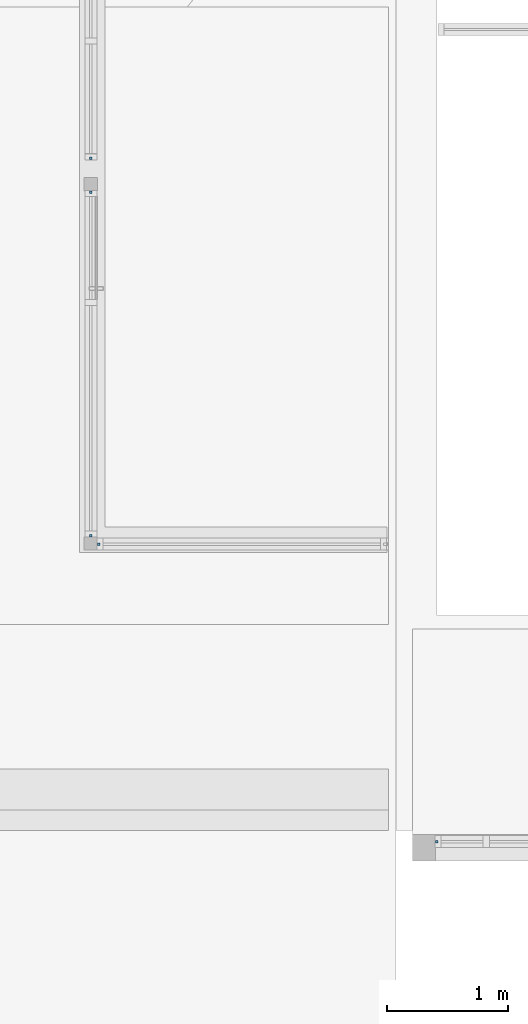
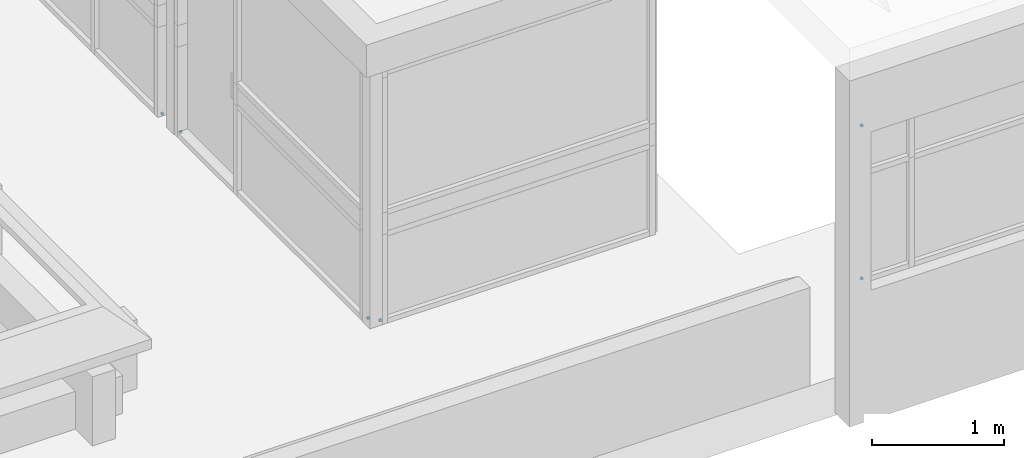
# One storey, part 116 of 153: 6 plates, 4 elements without a shape of their own.
"""IFC4 building model written with IfcOpenShell, lengths in metres."""

import ifcopenshell
import ifcopenshell.guid

model = None  # the IFC model being written
_history = None  # IfcOwnerHistory: only IFC2X3 demands one
_inside = {}  # id of a spatial element -> (the spatial element, [elements in it])
_under = {}  # id of a project, library or spatial element -> (it, [spatial elements below it])
_declared = {}  # id of a project -> (the project, [libraries it declares])
_typed = {}  # id of a type object -> (the type object, [elements of that type])
_made_of = {}  # id of a material, layer set ... -> (it, [elements and type objects made of it])


def new_model(schema):
    """Start an empty IFC model of exactly this schema.

    Asked for "IFC4X3", IfcOpenShell would pick the latest addendum, in which some entities
    have other attributes; the version numbers below select the first issue.
    IFC2X3 requires an IfcOwnerHistory on every rooted entity: one is made here for all.
    """
    global model, _history
    if schema == "IFC4X3":
        model = ifcopenshell.file(schema_version=(4, 3, 0, 0))
    else:
        model = ifcopenshell.file(schema=schema)
    _inside.clear()
    _under.clear()
    _declared.clear()
    _typed.clear()
    _made_of.clear()
    _history = None
    if model.schema == "IFC2X3":
        org = make("IfcOrganization", Name="unknown")
        user = make(
            "IfcPersonAndOrganization",
            ThePerson=make("IfcPerson", FamilyName="unknown"),
            TheOrganization=org,
        )
        app = make(
            "IfcApplication",
            ApplicationDeveloper=org,
            Version="unknown",
            ApplicationFullName="unknown",
            ApplicationIdentifier="unknown",
        )
        _history = make(
            "IfcOwnerHistory",
            OwningUser=user,
            OwningApplication=app,
            ChangeAction="ADDED",
            CreationDate=0,
        )
    return model


def make(cls, **values):
    """One entity of the class cls with the attributes given. An attribute that is None is left unset."""
    return model.create_entity(
        cls, **{name: value for name, value in values.items() if value is not None}
    )


def entity(cls, *values):
    """Any entity or typed value of the class cls, its attributes in the order of the schema. None: left unset."""
    e = model.create_entity(cls)
    for i, value in enumerate(values):
        if value is not None:
            e[i] = value
    return e


def rooted(cls, **values):
    """An entity with a GlobalId (a new one), such as an element, a storey or a relation."""
    return make(cls, GlobalId=ifcopenshell.guid.new(), OwnerHistory=_history, **values)


def si_unit(unit_type, name, prefix=None):
    """IfcSIUnit, for example si_unit("LENGTHUNIT", "METRE", prefix="MILLI")."""
    return make("IfcSIUnit", UnitType=unit_type, Prefix=prefix, Name=name)


def converted_unit(unit_type, name, factor, base, dimensions=None, offset=None):
    """IfcConversionBasedUnit, such as the inch: factor (a typed value) times the base unit."""
    return make(
        "IfcConversionBasedUnit"
        if offset is None
        else "IfcConversionBasedUnitWithOffset",
        ConversionOffset=offset,
        Dimensions=None
        if dimensions is None
        else entity("IfcDimensionalExponents", *dimensions),
        UnitType=unit_type,
        Name=name,
        ConversionFactor=make(
            "IfcMeasureWithUnit", ValueComponent=factor, UnitComponent=base
        ),
    )


def derived_unit(unit_type, elements):
    """IfcDerivedUnit: a product of units, each with its exponent."""
    return make(
        "IfcDerivedUnit",
        Elements=[
            make("IfcDerivedUnitElement", Unit=unit, Exponent=power)
            for unit, power in elements
        ],
        UnitType=unit_type,
    )


def assignment(units):
    """IfcUnitAssignment: the units of a project."""
    return None if units is None else make("IfcUnitAssignment", Units=units)


def point(xyz):
    """IfcCartesianPoint."""
    return None if xyz is None else make("IfcCartesianPoint", Coordinates=xyz)


def direction(xyz):
    """IfcDirection."""
    return None if xyz is None else make("IfcDirection", DirectionRatios=xyz)


def frame(location, z_axis=None, x_axis=None):
    """IfcAxis2Placement3D, a coordinate frame: its origin and axes. An axis left out is left unset."""
    return make(
        "IfcAxis2Placement3D",
        Location=point(location),
        Axis=direction(z_axis),
        RefDirection=direction(x_axis),
    )


def origin():
    """The frame at (0, 0, 0) with its axes left unset."""
    return frame((0.0, 0.0, 0.0))


def place(relative_to, where):
    """IfcLocalPlacement: puts the frame where relative to a parent placement (None: the world)."""
    return make(
        "IfcLocalPlacement", PlacementRelTo=relative_to, RelativePlacement=where
    )


def context(
    kind, dimensions, precision=None, world=None, true_north=None, identifier=None
):
    """IfcGeometricRepresentationContext, for example the 3D "Model" context."""
    return make(
        "IfcGeometricRepresentationContext",
        ContextIdentifier=identifier,
        ContextType=kind,
        CoordinateSpaceDimension=dimensions,
        Precision=precision,
        WorldCoordinateSystem=world,
        TrueNorth=true_north,
    )


def subcontext(parent, identifier, kind, view, scale=None):
    """IfcGeometricRepresentationSubContext, for example "Body" below "Model"."""
    return make(
        "IfcGeometricRepresentationSubContext",
        ContextIdentifier=identifier,
        ContextType=kind,
        ParentContext=parent,
        TargetScale=scale,
        TargetView=view,
    )


def project(units=None, contexts=None):
    """IfcProject with its units and contexts."""
    return rooted(
        "IfcProject",
        Name="project",
        RepresentationContexts=contexts,
        UnitsInContext=assignment(units),
    )


def spatial(cls, under=None, at=None, **own):
    """A site, building, storey or space (cls), placed at a placement, below another one or the project."""
    s = rooted(cls, ObjectPlacement=at, **own)
    if under is not None:
        _under.setdefault(under.id(), (under, []))[1].append(s)
    return s


def point_list(points):
    """IfcCartesianPointList2D or 3D."""
    cls = (
        "IfcCartesianPointList2D" if len(points[0]) == 2 else "IfcCartesianPointList3D"
    )
    return make(cls, CoordList=points)


def indexed_curve(points, segments=None, self_intersect=None):
    """IfcIndexedPolyCurve: lines and arcs through numbered points (the first is 1)."""
    return make(
        "IfcIndexedPolyCurve",
        Points=point_list(points),
        Segments=segments,
        SelfIntersect=self_intersect,
    )


def outline(outer, holes=None, kind="AREA"):
    """IfcArbitraryClosedProfileDef: a profile drawn as a closed curve; with holes, ...WithVoids."""
    if holes is None:
        return make("IfcArbitraryClosedProfileDef", ProfileType=kind, OuterCurve=outer)
    return make(
        "IfcArbitraryProfileDefWithVoids",
        ProfileType=kind,
        OuterCurve=outer,
        InnerCurves=holes,
    )


def extrude(swept, where, along, depth):
    """IfcExtrudedAreaSolid: the profile swept, set in the frame where, extruded along a direction by depth."""
    return make(
        "IfcExtrudedAreaSolid",
        SweptArea=swept,
        Position=where,
        ExtrudedDirection=direction(along),
        Depth=depth,
    )


def shape(context_of_items, identifier, shape_type, items):
    """IfcShapeRepresentation: the items that make up one representation, for example the "Body"."""
    return make(
        "IfcShapeRepresentation",
        ContextOfItems=context_of_items,
        RepresentationIdentifier=identifier,
        RepresentationType=shape_type,
        Items=items,
    )


def source(mapping_origin, context_of_items, identifier, shape_type, items):
    """IfcRepresentationMap: a shape defined once, which mapped items show again and again."""
    return make(
        "IfcRepresentationMap",
        MappingOrigin=mapping_origin,
        MappedRepresentation=shape(context_of_items, identifier, shape_type, items),
    )


def transform(
    local_origin,
    x_axis=None,
    y_axis=None,
    z_axis=None,
    scale=None,
    scale2=None,
    scale3=None,
    uniform=True,
):
    """IfcCartesianTransformationOperator3D, or its non-uniform kind. x_axis, y_axis, z_axis: its Axis1, 2, 3."""
    if uniform:
        return make(
            "IfcCartesianTransformationOperator3D",
            Axis1=direction(x_axis),
            Axis2=direction(y_axis),
            LocalOrigin=point(local_origin),
            Scale=scale,
            Axis3=direction(z_axis),
        )
    return make(
        "IfcCartesianTransformationOperator3DnonUniform",
        Axis1=direction(x_axis),
        Axis2=direction(y_axis),
        LocalOrigin=point(local_origin),
        Scale=scale,
        Axis3=direction(z_axis),
        Scale2=scale2,
        Scale3=scale3,
    )


def mapped(mapping_source, mapping_target):
    """IfcMappedItem: shows the shape of a source again, moved by a transform."""
    return make(
        "IfcMappedItem", MappingSource=mapping_source, MappingTarget=mapping_target
    )


def material(Name=None, Category=None):
    """IfcMaterial."""
    return make("IfcMaterial", Name=Name, Category=Category)


def made_of(thing, what):
    """Note that an element or type object is made of a material, layer set ...; save() writes the relation."""
    if what is not None:
        _made_of.setdefault(what.id(), (what, []))[1].append(thing)
    return thing


def type_object(cls, material=None, **own):
    """A type object (cls), such as IfcWallType, which elements share."""
    return made_of(rooted(cls, **own), material)


def type_shapes(of_type, sources):
    """Give a type object the sources (RepresentationMaps) that its elements show as mapped items."""
    of_type.RepresentationMaps = sources


def element(
    cls,
    number,
    at=None,
    inside=None,
    cuts=None,
    type_object=None,
    material=None,
    context=None,
    identifier="Body",
    shape_type=None,
    held_by="IfcProductDefinitionShape",
    body=None,
    shapes=None,
    **own,
):
    """One element of the class cls, such as IfcWall. Its Tag is "e" and its number.

    at: its placement. inside: the storey or other place that contains it. cuts: it is an
    opening in that element (IfcRelVoidsElement). A single representation is given by context,
    identifier, shape_type and body (its items); several are given by shapes. held_by: the class
    of the entity that holds the representations. save() writes the other relations.
    """
    e = rooted(cls, Tag="e%d" % number, ObjectPlacement=at, **own)
    if body is not None:
        shapes = [shape(context, identifier, shape_type, body)]
    if shapes is not None:
        e.Representation = make(held_by, Representations=shapes)
    if inside is not None:
        _inside.setdefault(inside.id(), (inside, []))[1].append(e)
    if cuts is not None:
        rooted(
            "IfcRelVoidsElement", RelatingBuildingElement=cuts, RelatedOpeningElement=e
        )
    if type_object is not None:
        _typed.setdefault(type_object.id(), (type_object, []))[1].append(e)
    return made_of(e, material)


def aggregate(whole, parts):
    """IfcRelAggregates: a whole, such as a stair, and the parts it consists of."""
    return rooted("IfcRelAggregates", RelatingObject=whole, RelatedObjects=parts)


def save(model, path):
    """Write the relations noted so far, then the file.

    IfcRelAggregates (storeys below a building ...), IfcRelContainedInSpatialStructure (elements
    in a storey), IfcRelDefinesByType, IfcRelAssociatesMaterial and IfcRelDeclares: one each for
    every whole, place, type object, material and project.
    """
    for whole, parts in _under.values():
        aggregate(whole, parts)
    for where, things in _inside.values():
        rooted(
            "IfcRelContainedInSpatialStructure",
            RelatedElements=things,
            RelatingStructure=where,
        )
    for kind, things in _typed.values():
        rooted("IfcRelDefinesByType", RelatedObjects=things, RelatingType=kind)
    for what, things in _made_of.values():
        rooted("IfcRelAssociatesMaterial", RelatedObjects=things, RelatingMaterial=what)
    for by, libraries in _declared.values():
        rooted("IfcRelDeclares", RelatingContext=by, RelatedDefinitions=libraries)
    model.write(path)


model = new_model("IFC4")

# Units and contexts
model_context = context("Model", 3, precision=1e-05, world=origin(), true_north=direction((6.123031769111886e-17, 1.0)))
body_context = subcontext(model_context, "Body", "Model", "MODEL_VIEW")
ifc_project = project(units=[si_unit("LENGTHUNIT", "METRE"), si_unit("AREAUNIT", "SQUARE_METRE"), si_unit("VOLUMEUNIT", "CUBIC_METRE"), converted_unit("PLANEANGLEUNIT", "DEGREE", entity("IfcRatioMeasure", 0.017453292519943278), si_unit("PLANEANGLEUNIT", "RADIAN"), dimensions=[0, 0, 0, 0, 0, 0, 0]), si_unit("MASSUNIT", "GRAM", prefix="KILO"), derived_unit("MASSDENSITYUNIT", [(si_unit("MASSUNIT", "GRAM", prefix="KILO"), 1), (si_unit("LENGTHUNIT", "METRE"), -3)]), derived_unit("MOMENTOFINERTIAUNIT", [(si_unit("LENGTHUNIT", "METRE"), 4)]), si_unit("TIMEUNIT", "SECOND"), si_unit("FREQUENCYUNIT", "HERTZ"), si_unit("THERMODYNAMICTEMPERATUREUNIT", "DEGREE_CELSIUS"), derived_unit("THERMALTRANSMITTANCEUNIT", [(si_unit("MASSUNIT", "GRAM", prefix="KILO"), 1), (si_unit("THERMODYNAMICTEMPERATUREUNIT", "KELVIN"), -1), (si_unit("TIMEUNIT", "SECOND"), -3)]), derived_unit("VOLUMETRICFLOWRATEUNIT", [(si_unit("LENGTHUNIT", "METRE"), 3), (si_unit("TIMEUNIT", "SECOND"), -1)]), derived_unit("MASSFLOWRATEUNIT", [(si_unit("MASSUNIT", "GRAM", prefix="KILO"), 1), (si_unit("TIMEUNIT", "SECOND"), -1)]), derived_unit("ROTATIONALFREQUENCYUNIT", [(si_unit("TIMEUNIT", "SECOND"), -1)]), si_unit("ELECTRICCURRENTUNIT", "AMPERE"), si_unit("ELECTRICVOLTAGEUNIT", "VOLT"), si_unit("POWERUNIT", "WATT"), si_unit("FORCEUNIT", "NEWTON", prefix="KILO"), si_unit("ILLUMINANCEUNIT", "LUX"), si_unit("LUMINOUSFLUXUNIT", "LUMEN"), si_unit("LUMINOUSINTENSITYUNIT", "CANDELA"), derived_unit("USERDEFINED", [(si_unit("MASSUNIT", "GRAM", prefix="KILO"), -1), (si_unit("LENGTHUNIT", "METRE"), -2), (si_unit("TIMEUNIT", "SECOND"), 3), (si_unit("LUMINOUSFLUXUNIT", "LUMEN"), 1)]), derived_unit("SOUNDPOWERUNIT", [(si_unit("MASSUNIT", "GRAM", prefix="KILO"), 1), (si_unit("LENGTHUNIT", "METRE"), 2), (si_unit("TIMEUNIT", "SECOND"), -3)]), derived_unit("SOUNDPRESSUREUNIT", [(si_unit("MASSUNIT", "GRAM", prefix="KILO"), 1), (si_unit("LENGTHUNIT", "METRE"), -1), (si_unit("TIMEUNIT", "SECOND"), -2)]), derived_unit("LINEARVELOCITYUNIT", [(si_unit("LENGTHUNIT", "METRE"), 1), (si_unit("TIMEUNIT", "SECOND"), -1)]), si_unit("PRESSUREUNIT", "PASCAL"), derived_unit("USERDEFINED", [(si_unit("LENGTHUNIT", "METRE"), -2), (si_unit("MASSUNIT", "GRAM", prefix="KILO"), 1), (si_unit("TIMEUNIT", "SECOND"), -2)]), derived_unit("LINEARFORCEUNIT", [(si_unit("MASSUNIT", "GRAM", prefix="KILO"), 1), (si_unit("LENGTHUNIT", "METRE"), 1), (si_unit("TIMEUNIT", "SECOND"), -2), (si_unit("LENGTHUNIT", "METRE"), -1)]), derived_unit("PLANARFORCEUNIT", [(si_unit("MASSUNIT", "GRAM", prefix="KILO"), 1), (si_unit("LENGTHUNIT", "METRE"), 1), (si_unit("TIMEUNIT", "SECOND"), -2), (si_unit("LENGTHUNIT", "METRE"), -2)])], contexts=[model_context])

# Site, building, storey
site_placement = place(None, origin())
site = spatial("IfcSite", under=ifc_project, at=site_placement, Name="Superficie", CompositionType="ELEMENT")
building_placement = place(site_placement, origin())
building = spatial("IfcBuilding", under=site, at=building_placement, CompositionType="ELEMENT")
storey_placement = place(building_placement, frame((0.0, 0.0, 3.5999999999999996)))
storey = spatial("IfcBuildingStorey", under=building, at=storey_placement, Name="Nivel 1", CompositionType="ELEMENT", Elevation=3.5999999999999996)

# Curtain wall, plates
curtain_wall_type = type_object("IfcCurtainWallType", Name="Muro cortina:Muro cortina - simple", PredefinedType="NOTDEFINED")
curtain_wall_1_placement = place(storey_placement, frame((0.0, 0.0, -3.5999999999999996)))
curtain_wall_1 = element("IfcCurtainWall", 1, at=curtain_wall_1_placement, inside=storey, type_object=curtain_wall_type, Name="Muro cortina:Muro cortina - simple", ObjectType="Muro cortina:Muro cortina - simple", PredefinedType="NOTDEFINED")
ifc_material = material(Name="Cristal", Category="Vidrio")
plate_type = type_object("IfcPlateType", Name="Panel de sistema:Acristalado", PredefinedType="CURTAIN_PANEL", material=ifc_material)
shared_shape = source(origin(), body_context, "Body", "SweptSolid", [
    extrude(outline(indexed_curve([(-0.01, -0.009999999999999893), (0.01, -0.009999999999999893), (0.01, 0.009999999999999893), (-0.01, 0.009999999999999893), (-0.01, -0.009999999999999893)], self_intersect=False)), frame((0.0, 0.0, 0.0), z_axis=(0.0, 0.0, 1.0), x_axis=(0.0, 1.0, 0.0)), (0.0, 0.0, 1.0), 0.02000000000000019),
])
type_shapes(plate_type, [shared_shape])
plate_1_placement = place(curtain_wall_1_placement, frame((20.98600195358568, -3.424170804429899, 4.5), z_axis=(0.0, 0.0, 1.0), x_axis=(-1.0, 0.0, 0.0)))
plate_1 = element("IfcPlate", 2, at=plate_1_placement, type_object=plate_type, material=ifc_material, Name="Panel de sistema:Acristalado", ObjectType="Panel de sistema:Acristalado", PredefinedType="CURTAIN_PANEL", context=body_context, shape_type="MappedRepresentation", body=[
    mapped(shared_shape, transform((0.0, 0.0, 0.0), scale=1.0)),
])
plate_2_placement = place(curtain_wall_1_placement, frame((20.98600195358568, -3.424170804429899, 5.916385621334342), z_axis=(0.0, 0.0, 1.0), x_axis=(-1.0, 0.0, 0.0)))
plate_2 = element("IfcPlate", 3, at=plate_2_placement, type_object=plate_type, material=ifc_material, Name="Panel de sistema:Acristalado", ObjectType="Panel de sistema:Acristalado", PredefinedType="CURTAIN_PANEL", context=body_context, shape_type="MappedRepresentation", body=[
    mapped(shared_shape, transform((0.0, 0.0, 0.0), scale=1.0)),
])
aggregate(curtain_wall_1, [plate_1, plate_2])

# Curtain wall, plate
curtain_wall_2_placement = place(storey_placement, frame((0.0, 0.0, -3.5999999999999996)))
curtain_wall_2 = element("IfcCurtainWall", 4, at=curtain_wall_2_placement, inside=storey, type_object=curtain_wall_type, Name="Muro cortina:Muro cortina - simple", ObjectType="Muro cortina:Muro cortina - simple", PredefinedType="NOTDEFINED")
plate_3_placement = place(curtain_wall_2_placement, frame((18.19179901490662, -0.9636067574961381, 3.5999999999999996)))
plate_3 = element("IfcPlate", 5, at=plate_3_placement, type_object=plate_type, material=ifc_material, Name="Panel de sistema:Acristalado", ObjectType="Panel de sistema:Acristalado", PredefinedType="CURTAIN_PANEL", context=body_context, shape_type="MappedRepresentation", body=[
    mapped(shared_shape, transform((0.0, 0.0, 0.0), scale=1.0)),
])
aggregate(curtain_wall_2, [plate_3])

# Curtain wall, plates
curtain_wall_3_placement = place(storey_placement, frame((0.0, 0.0, -3.5999999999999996)))
curtain_wall_3 = element("IfcCurtainWall", 6, at=curtain_wall_3_placement, inside=storey, type_object=curtain_wall_type, Name="Muro cortina:Muro cortina - simple", ObjectType="Muro cortina:Muro cortina - simple", PredefinedType="NOTDEFINED")
plate_4_placement = place(curtain_wall_3_placement, frame((18.12679901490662, -0.8947671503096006, 3.5999999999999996), z_axis=(0.0, 0.0, 1.0), x_axis=(0.0, 1.0, 0.0)))
plate_4 = element("IfcPlate", 7, at=plate_4_placement, type_object=plate_type, material=ifc_material, Name="Panel de sistema:Acristalado", ObjectType="Panel de sistema:Acristalado", PredefinedType="CURTAIN_PANEL", context=body_context, shape_type="MappedRepresentation", body=[
    mapped(shared_shape, transform((0.0, 0.0, 0.0), scale=1.0)),
])
plate_5_placement = place(curtain_wall_3_placement, frame((18.12679901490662, 1.9452328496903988, 3.5999999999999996), z_axis=(0.0, 0.0, 1.0), x_axis=(0.0, 1.0, 0.0)))
plate_5 = element("IfcPlate", 8, at=plate_5_placement, type_object=plate_type, material=ifc_material, Name="Panel de sistema:Acristalado", ObjectType="Panel de sistema:Acristalado", PredefinedType="CURTAIN_PANEL", context=body_context, shape_type="MappedRepresentation", body=[
    mapped(shared_shape, transform((0.0, 0.0, 0.0), scale=1.0)),
])
aggregate(curtain_wall_3, [plate_4, plate_5])

# Curtain wall, plate
curtain_wall_4_placement = place(storey_placement, frame((0.0, 0.0, -3.5999999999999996)))
curtain_wall_4 = element("IfcCurtainWall", 9, at=curtain_wall_4_placement, inside=storey, type_object=curtain_wall_type, Name="Muro cortina:Muro cortina - simple", ObjectType="Muro cortina:Muro cortina - simple", PredefinedType="NOTDEFINED")
plate_6_placement = place(curtain_wall_4_placement, frame((18.12679901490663, 2.225232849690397, 3.5999999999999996), z_axis=(0.0, 0.0, 1.0), x_axis=(0.0, 1.0, 0.0)))
plate_6 = element("IfcPlate", 10, at=plate_6_placement, type_object=plate_type, material=ifc_material, Name="Panel de sistema:Acristalado", ObjectType="Panel de sistema:Acristalado", PredefinedType="CURTAIN_PANEL", context=body_context, shape_type="MappedRepresentation", body=[
    mapped(shared_shape, transform((0.0, 0.0, 0.0), scale=1.0)),
])
aggregate(curtain_wall_4, [plate_6])

save(model, "model.ifc")
